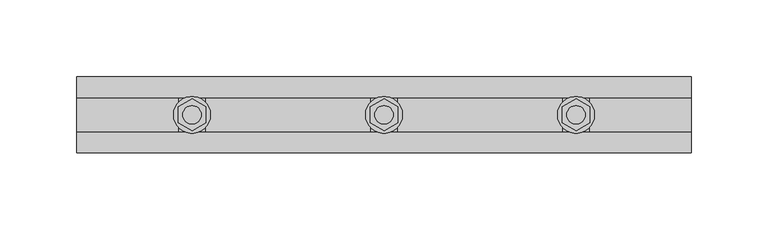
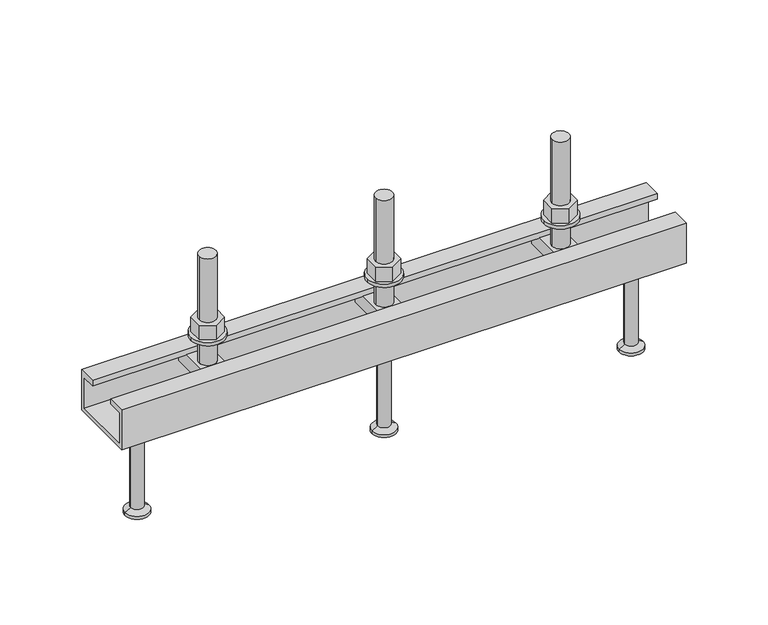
"""IFC4 building model written with IfcOpenShell, lengths in millimetres: fastener geometry, JTA-W JORDAHL® AnchorChannels : JTA-W L=400 mm."""

from ifc_helpers import new_model, si_unit, point, frame, frame_2d, origin, place, context, project, spatial, polyline, circle_curve, trimmed, segment, composite_curve, outline, extrude, source, transform, mapped, element, save
from ifc_brep_helpers import plane_surface, cylinder_surface, revolved_surface, advanced_brep


def fastener_ec209d90(model_context):
    return source(origin(), model_context, "Body", "SolidModel", [
        extrude(outline(polyline([(200.0, -10.3923048), (191.0, -5.1961524), (191.0, 5.1961524), (200.0, 10.3923048), (209.0, 5.1961524), (209.0, -5.1961524), (200.0, -10.3923048)]), holes=[composite_curve([segment(trimmed(circle_curve(frame_2d((200.0, 0.0)), 6.0), [point((194.0, 0.0))], [point((206.0, 0.0))], True, "CARTESIAN"), True, "CONTINUOUS"), segment(trimmed(circle_curve(frame_2d((200.0, 0.0)), 6.0), [point((206.0, 0.0))], [point((194.0, 0.0))], True, "CARTESIAN"), True, "CONTINUOUS")], self_intersect=False)]), frame((0.0, 0.0, 17.5), z_axis=(0.0, 0.0, 1.0), x_axis=(1.0, 0.0, 0.0)), (0.0, 0.0, 1.0), 10.8),
        extrude(outline(composite_curve([segment(trimmed(circle_curve(frame_2d((200.0, 0.0)), 12.0), [point((188.0, 0.0))], [point((212.0, 0.0))], False, "CARTESIAN"), True, "CONTINUOUS"), segment(trimmed(circle_curve(frame_2d((200.0, 0.0)), 12.0), [point((212.0, 0.0))], [point((188.0, 0.0))], False, "CARTESIAN"), True, "CONTINUOUS")], self_intersect=False), holes=[composite_curve([segment(trimmed(circle_curve(frame_2d((200.0, 0.0)), 6.5), [point((193.5, 0.0))], [point((206.5, 0.0))], True, "CARTESIAN"), True, "CONTINUOUS"), segment(trimmed(circle_curve(frame_2d((200.0, 0.0)), 6.5), [point((206.5, 0.0))], [point((193.5, 0.0))], True, "CARTESIAN"), True, "CONTINUOUS")], self_intersect=False)]), frame((0.0, 0.0, 15.0), z_axis=(0.0, 0.0, 1.0), x_axis=(1.0, 0.0, 0.0)), (0.0, 0.0, 1.0), 2.5),
        advanced_brep(
        [(208.5, -20.7, -4.0), (208.5, -20.7, -14.0), (208.5, 20.7, -14.0), (208.5, 20.7, -4.0), (191.5, -20.7, -4.0), (191.5, 20.7, -4.0), (191.5, 20.7, -14.0), (191.5, -20.7, -14.0), (206.0, 0.0, -4.0), (194.0, 0.0, -4.0), (194.0, 0.0, 76.0), (206.0, 0.0, 76.0)],
        [
            (0, 1),
            (1, 2),
            (2, 3),
            (3, 0),
            (4, 5),
            (5, 6),
            (6, 7),
            (7, 4),
            (3, 5),
            (4, 0),
            (8, 9, circle_curve(frame((200.0, 0.0, -4.0), z_axis=(0.0, 0.0, -1.0), x_axis=(1.0, 0.0, 0.0)), 6.0)),
            (9, 8, circle_curve(frame((200.0, 0.0, -4.0), z_axis=(0.0, 0.0, -1.0), x_axis=(1.0, 0.0, 0.0)), 6.0)),
            (2, 6),
            (1, 7),
            (10, 11, circle_curve(frame((200.0, 0.0, 76.0), z_axis=(0.0, 0.0, 1.0), x_axis=(1.0, 0.0, 0.0)), 6.0)),
            (11, 10, circle_curve(frame((200.0, 0.0, 76.0), z_axis=(0.0, 0.0, 1.0), x_axis=(1.0, 0.0, 0.0)), 6.0)),
            (11, 8),
            (9, 10),
        ],
        [
            plane_surface(frame((208.5, 20.7, -4.0), z_axis=(1.0, 0.0, 0.0), x_axis=(0.0, 1.0, 0.0))),
            plane_surface(frame((191.5, 20.7, -4.0), z_axis=(-1.0, 0.0, 0.0), x_axis=(0.0, -1.0, 0.0))),
            plane_surface(frame((208.5, -20.7, -4.0), z_axis=(0.0, 0.0, 1.0), x_axis=(-1.0, 0.0, 0.0))),
            plane_surface(frame((208.5, 20.7, -4.0), z_axis=(0.0, 1.0, 0.0), x_axis=(-1.0, 0.0, 0.0))),
            plane_surface(frame((208.5, 20.7, -14.0), z_axis=(0.0, 0.0, -1.0), x_axis=(-1.0, 0.0, 0.0))),
            plane_surface(frame((208.5, -20.7, -14.0), z_axis=(0.0, -1.0, 0.0), x_axis=(-1.0, 0.0, 0.0))),
            plane_surface(frame((206.0, 0.0, 76.0), z_axis=(0.0, 0.0, 1.0), x_axis=(0.0, -1.0, 0.0))),
            cylinder_surface(frame((200.0, 0.0, -4.0), z_axis=(0.0, 0.0, 1.0), x_axis=(1.0, 0.0, 0.0)), 6.0),
        ],
        [
            (0, [[1, 2, 3, 4]]),
            (1, [[5, 6, 7, 8]]),
            (2, [[9, -5, 10, -4], [11, 12]]),
            (3, [[13, -6, -9, -3]]),
            (4, [[14, -7, -13, -2]]),
            (5, [[-10, -8, -14, -1]]),
            (6, [[15, 16]]),
            (7, [[17, -12, 18, -16]]),
            (7, [[-18, -11, -17, -15]]),
        ],
    ),
        advanced_brep(
        [(200.0, 0.0, -30.0), (186.5, 0.0, -30.0), (213.5, 0.0, -30.0), (191.5, 0.0, -100.0), (200.0, 0.0, -100.0), (208.5, 0.0, -100.0), (191.5, 0.0, -98.0), (208.5, 0.0, -98.0), (195.5, 0.0, -95.6905989), (204.5, 0.0, -95.6905989), (195.5, 0.0, -32.5), (204.5, 0.0, -32.5)],
        [
            (0, 1),
            (1, 2, circle_curve(frame((200.0, 0.0, -30.0), z_axis=(0.0, 0.0, 1.0), x_axis=(1.0, 0.0, 0.0)), 13.5)),
            (2, 0),
            (2, 1, circle_curve(frame((200.0, 0.0, -30.0), z_axis=(0.0, 0.0, 1.0), x_axis=(1.0, 0.0, 0.0)), 13.5)),
            (3, 4),
            (4, 5),
            (5, 3, circle_curve(frame((200.0, 0.0, -100.0), z_axis=(0.0, 0.0, -1.0), x_axis=(1.0, 0.0, 0.0)), 8.5)),
            (3, 5, circle_curve(frame((200.0, 0.0, -100.0), z_axis=(0.0, 0.0, -1.0), x_axis=(1.0, 0.0, 0.0)), 8.5)),
            (6, 3),
            (5, 7),
            (7, 6, circle_curve(frame((200.0, 0.0, -98.0), z_axis=(0.0, 0.0, -1.0), x_axis=(1.0, 0.0, 0.0)), 8.5)),
            (6, 7, circle_curve(frame((200.0, 0.0, -98.0), z_axis=(0.0, 0.0, -1.0), x_axis=(1.0, 0.0, 0.0)), 8.5)),
            (8, 6),
            (7, 9),
            (9, 8, circle_curve(frame((200.0, 0.0, -95.6905989), z_axis=(0.0, 0.0, -1.0), x_axis=(1.0, 0.0, 0.0)), 4.5)),
            (8, 9, circle_curve(frame((200.0, 0.0, -95.6905989), z_axis=(0.0, 0.0, -1.0), x_axis=(1.0, 0.0, 0.0)), 4.5)),
            (10, 8),
            (9, 11),
            (11, 10, circle_curve(frame((200.0, 0.0, -32.5), z_axis=(0.0, 0.0, -1.0), x_axis=(1.0, 0.0, 0.0)), 4.5)),
            (10, 11, circle_curve(frame((200.0, 0.0, -32.5), z_axis=(0.0, 0.0, -1.0), x_axis=(1.0, 0.0, 0.0)), 4.5)),
            (1, 10),
            (11, 2),
        ],
        [
            plane_surface(frame((200.0, 0.0, -30.0), z_axis=(0.0, 0.0, 1.0), x_axis=(1.0, 0.0, 0.0))),
            plane_surface(frame((200.0, 0.0, -100.0), z_axis=(0.0, 0.0, -1.0), x_axis=(1.0, 0.0, 0.0))),
            cylinder_surface(frame((200.0, 0.0, 2284.3150031), z_axis=(0.0, 0.0, 1.0), x_axis=(1.0, 0.0, 0.0)), 8.5),
            revolved_surface(polyline([(208.5, 0.0, -98.0), (204.5, 0.0, -95.6905989)]), (200.0, 0.0, 2284.3150031), (0.0, 0.0, 1.0)),
            cylinder_surface(frame((200.0, 0.0, 2284.3150031), z_axis=(0.0, 0.0, 1.0), x_axis=(1.0, 0.0, 0.0)), 4.5),
            revolved_surface(polyline([(204.5, 0.0, -32.5), (213.5, 0.0, -30.0)]), (200.0, 0.0, 2284.3150031), (0.0, 0.0, 1.0)),
        ],
        [
            (0, [[1, 2, 3]]),
            (0, [[-3, 4, -1]]),
            (1, [[5, 6, 7]]),
            (1, [[-6, -5, 8]]),
            (2, [[9, -7, 10, 11]]),
            (2, [[-10, -8, -9, 12]]),
            (3, [[13, -11, 14, 15]]),
            (3, [[-14, -12, -13, 16]]),
            (4, [[17, -15, 18, 19]]),
            (4, [[-18, -16, -17, 20]]),
            (5, [[21, -19, 22, -2]]),
            (5, [[-22, -20, -21, -4]]),
        ],
    ),
        extrude(outline(polyline([(325.0, -10.3923048), (316.0, -5.1961524), (316.0, 5.1961524), (325.0, 10.3923048), (334.0, 5.1961524), (334.0, -5.1961524), (325.0, -10.3923048)]), holes=[composite_curve([segment(trimmed(circle_curve(frame_2d((325.0, 0.0)), 6.0), [point((319.0, 0.0))], [point((331.0, 0.0))], True, "CARTESIAN"), True, "CONTINUOUS"), segment(trimmed(circle_curve(frame_2d((325.0, 0.0)), 6.0), [point((331.0, 0.0))], [point((319.0, 0.0))], True, "CARTESIAN"), True, "CONTINUOUS")], self_intersect=False)]), frame((0.0, 0.0, 17.5), z_axis=(0.0, 0.0, 1.0), x_axis=(1.0, 0.0, 0.0)), (0.0, 0.0, 1.0), 10.8),
        extrude(outline(composite_curve([segment(trimmed(circle_curve(frame_2d((325.0, 0.0)), 12.0), [point((313.0, 0.0))], [point((337.0, 0.0))], False, "CARTESIAN"), True, "CONTINUOUS"), segment(trimmed(circle_curve(frame_2d((325.0, 0.0)), 12.0), [point((337.0, 0.0))], [point((313.0, 0.0))], False, "CARTESIAN"), True, "CONTINUOUS")], self_intersect=False), holes=[composite_curve([segment(trimmed(circle_curve(frame_2d((325.0, 0.0)), 6.5), [point((318.5, 0.0))], [point((331.5, 0.0))], True, "CARTESIAN"), True, "CONTINUOUS"), segment(trimmed(circle_curve(frame_2d((325.0, 0.0)), 6.5), [point((331.5, 0.0))], [point((318.5, 0.0))], True, "CARTESIAN"), True, "CONTINUOUS")], self_intersect=False)]), frame((0.0, 0.0, 15.0), z_axis=(0.0, 0.0, 1.0), x_axis=(1.0, 0.0, 0.0)), (0.0, 0.0, 1.0), 2.5),
        extrude(outline(polyline([(75.0, -10.3923048), (66.0, -5.1961524), (66.0, 5.1961524), (75.0, 10.3923048), (84.0, 5.1961524), (84.0, -5.1961524), (75.0, -10.3923048)]), holes=[composite_curve([segment(trimmed(circle_curve(frame_2d((75.0, 0.0)), 6.0), [point((69.0, 0.0))], [point((81.0, 0.0))], True, "CARTESIAN"), True, "CONTINUOUS"), segment(trimmed(circle_curve(frame_2d((75.0, 0.0)), 6.0), [point((81.0, 0.0))], [point((69.0, 0.0))], True, "CARTESIAN"), True, "CONTINUOUS")], self_intersect=False)]), frame((0.0, 0.0, 17.5), z_axis=(0.0, 0.0, 1.0), x_axis=(1.0, 0.0, 0.0)), (0.0, 0.0, 1.0), 10.8),
        extrude(outline(composite_curve([segment(trimmed(circle_curve(frame_2d((75.0, 0.0)), 12.0), [point((63.0, 0.0))], [point((87.0, 0.0))], False, "CARTESIAN"), True, "CONTINUOUS"), segment(trimmed(circle_curve(frame_2d((75.0, 0.0)), 12.0), [point((87.0, 0.0))], [point((63.0, 0.0))], False, "CARTESIAN"), True, "CONTINUOUS")], self_intersect=False), holes=[composite_curve([segment(trimmed(circle_curve(frame_2d((75.0, 0.0)), 6.5), [point((68.5, 0.0))], [point((81.5, 0.0))], True, "CARTESIAN"), True, "CONTINUOUS"), segment(trimmed(circle_curve(frame_2d((75.0, 0.0)), 6.5), [point((81.5, 0.0))], [point((68.5, 0.0))], True, "CARTESIAN"), True, "CONTINUOUS")], self_intersect=False)]), frame((0.0, 0.0, 15.0), z_axis=(0.0, 0.0, 1.0), x_axis=(1.0, 0.0, 0.0)), (0.0, 0.0, 1.0), 2.5),
        advanced_brep(
        [(333.5, -20.7, -4.0), (333.5, -20.7, -14.0), (333.5, 20.7, -14.0), (333.5, 20.7, -4.0), (316.5, -20.7, -4.0), (316.5, 20.7, -4.0), (316.5, 20.7, -14.0), (316.5, -20.7, -14.0), (331.0, 0.0, -4.0), (319.0, 0.0, -4.0), (319.0, 0.0, 76.0), (331.0, 0.0, 76.0)],
        [
            (0, 1),
            (1, 2),
            (2, 3),
            (3, 0),
            (4, 5),
            (5, 6),
            (6, 7),
            (7, 4),
            (3, 5),
            (4, 0),
            (8, 9, circle_curve(frame((325.0, 0.0, -4.0), z_axis=(0.0, 0.0, -1.0), x_axis=(1.0, 0.0, 0.0)), 6.0)),
            (9, 8, circle_curve(frame((325.0, 0.0, -4.0), z_axis=(0.0, 0.0, -1.0), x_axis=(1.0, 0.0, 0.0)), 6.0)),
            (2, 6),
            (1, 7),
            (10, 11, circle_curve(frame((325.0, 0.0, 76.0), z_axis=(0.0, 0.0, 1.0), x_axis=(1.0, 0.0, 0.0)), 6.0)),
            (11, 10, circle_curve(frame((325.0, 0.0, 76.0), z_axis=(0.0, 0.0, 1.0), x_axis=(1.0, 0.0, 0.0)), 6.0)),
            (11, 8),
            (9, 10),
        ],
        [
            plane_surface(frame((333.5, 20.7, -4.0), z_axis=(1.0, 0.0, 0.0), x_axis=(0.0, 1.0, 0.0))),
            plane_surface(frame((316.5, 20.7, -4.0), z_axis=(-1.0, 0.0, 0.0), x_axis=(0.0, -1.0, 0.0))),
            plane_surface(frame((333.5, -20.7, -4.0), z_axis=(0.0, 0.0, 1.0), x_axis=(-1.0, 0.0, 0.0))),
            plane_surface(frame((333.5, 20.7, -4.0), z_axis=(0.0, 1.0, 0.0), x_axis=(-1.0, 0.0, 0.0))),
            plane_surface(frame((333.5, 20.7, -14.0), z_axis=(0.0, 0.0, -1.0), x_axis=(-1.0, 0.0, 0.0))),
            plane_surface(frame((333.5, -20.7, -14.0), z_axis=(0.0, -1.0, 0.0), x_axis=(-1.0, 0.0, 0.0))),
            plane_surface(frame((331.0, 0.0, 76.0), z_axis=(0.0, 0.0, 1.0), x_axis=(0.0, -1.0, 0.0))),
            cylinder_surface(frame((325.0, 0.0, -4.0), z_axis=(0.0, 0.0, 1.0), x_axis=(1.0, 0.0, 0.0)), 6.0),
        ],
        [
            (0, [[1, 2, 3, 4]]),
            (1, [[5, 6, 7, 8]]),
            (2, [[9, -5, 10, -4], [11, 12]]),
            (3, [[13, -6, -9, -3]]),
            (4, [[14, -7, -13, -2]]),
            (5, [[-10, -8, -14, -1]]),
            (6, [[15, 16]]),
            (7, [[17, -12, 18, -16]]),
            (7, [[-18, -11, -17, -15]]),
        ],
    ),
        advanced_brep(
        [(83.5, -20.7, -4.0), (83.5, -20.7, -14.0), (83.5, 20.7, -14.0), (83.5, 20.7, -4.0), (66.5, -20.7, -4.0), (66.5, 20.7, -4.0), (66.5, 20.7, -14.0), (66.5, -20.7, -14.0), (81.0, 0.0, -4.0), (69.0, 0.0, -4.0), (69.0, 0.0, 76.0), (81.0, 0.0, 76.0)],
        [
            (0, 1),
            (1, 2),
            (2, 3),
            (3, 0),
            (4, 5),
            (5, 6),
            (6, 7),
            (7, 4),
            (3, 5),
            (4, 0),
            (8, 9, circle_curve(frame((75.0, 0.0, -4.0), z_axis=(0.0, 0.0, -1.0), x_axis=(1.0, 0.0, 0.0)), 6.0)),
            (9, 8, circle_curve(frame((75.0, 0.0, -4.0), z_axis=(0.0, 0.0, -1.0), x_axis=(1.0, 0.0, 0.0)), 6.0)),
            (2, 6),
            (1, 7),
            (10, 11, circle_curve(frame((75.0, 0.0, 76.0), z_axis=(0.0, 0.0, 1.0), x_axis=(1.0, 0.0, 0.0)), 6.0)),
            (11, 10, circle_curve(frame((75.0, 0.0, 76.0), z_axis=(0.0, 0.0, 1.0), x_axis=(1.0, 0.0, 0.0)), 6.0)),
            (11, 8),
            (9, 10),
        ],
        [
            plane_surface(frame((83.5, 20.7, -4.0), z_axis=(1.0, 0.0, 0.0), x_axis=(0.0, 1.0, 0.0))),
            plane_surface(frame((66.5, 20.7, -4.0), z_axis=(-1.0, 0.0, 0.0), x_axis=(0.0, -1.0, 0.0))),
            plane_surface(frame((83.5, -20.7, -4.0), z_axis=(0.0, 0.0, 1.0), x_axis=(-1.0, 0.0, 0.0))),
            plane_surface(frame((83.5, 20.7, -4.0), z_axis=(0.0, 1.0, 0.0), x_axis=(-1.0, 0.0, 0.0))),
            plane_surface(frame((83.5, 20.7, -14.0), z_axis=(0.0, 0.0, -1.0), x_axis=(-1.0, 0.0, 0.0))),
            plane_surface(frame((83.5, -20.7, -14.0), z_axis=(0.0, -1.0, 0.0), x_axis=(-1.0, 0.0, 0.0))),
            plane_surface(frame((81.0, 0.0, 76.0), z_axis=(0.0, 0.0, 1.0), x_axis=(0.0, -1.0, 0.0))),
            cylinder_surface(frame((75.0, 0.0, -4.0), z_axis=(0.0, 0.0, 1.0), x_axis=(1.0, 0.0, 0.0)), 6.0),
        ],
        [
            (0, [[1, 2, 3, 4]]),
            (1, [[5, 6, 7, 8]]),
            (2, [[9, -5, 10, -4], [11, 12]]),
            (3, [[13, -6, -9, -3]]),
            (4, [[14, -7, -13, -2]]),
            (5, [[-10, -8, -14, -1]]),
            (6, [[15, 16]]),
            (7, [[17, -12, 18, -16]]),
            (7, [[-18, -11, -17, -15]]),
        ],
    ),
        advanced_brep(
        [(375.0, 0.0, -30.0), (361.5, 0.0, -30.0), (388.5, 0.0, -30.0), (366.5, 0.0, -100.0), (375.0, 0.0, -100.0), (383.5, 0.0, -100.0), (366.5, 0.0, -98.0), (383.5, 0.0, -98.0), (370.5, 0.0, -95.6905989), (379.5, 0.0, -95.6905989), (370.5, 0.0, -32.5), (379.5, 0.0, -32.5)],
        [
            (0, 1),
            (1, 2, circle_curve(frame((375.0, 0.0, -30.0), z_axis=(0.0, 0.0, 1.0), x_axis=(1.0, 0.0, 0.0)), 13.5)),
            (2, 0),
            (2, 1, circle_curve(frame((375.0, 0.0, -30.0), z_axis=(0.0, 0.0, 1.0), x_axis=(1.0, 0.0, 0.0)), 13.5)),
            (3, 4),
            (4, 5),
            (5, 3, circle_curve(frame((375.0, 0.0, -100.0), z_axis=(0.0, 0.0, -1.0), x_axis=(1.0, 0.0, 0.0)), 8.5)),
            (3, 5, circle_curve(frame((375.0, 0.0, -100.0), z_axis=(0.0, 0.0, -1.0), x_axis=(1.0, 0.0, 0.0)), 8.5)),
            (6, 3),
            (5, 7),
            (7, 6, circle_curve(frame((375.0, 0.0, -98.0), z_axis=(0.0, 0.0, -1.0), x_axis=(1.0, 0.0, 0.0)), 8.5)),
            (6, 7, circle_curve(frame((375.0, 0.0, -98.0), z_axis=(0.0, 0.0, -1.0), x_axis=(1.0, 0.0, 0.0)), 8.5)),
            (8, 6),
            (7, 9),
            (9, 8, circle_curve(frame((375.0, 0.0, -95.6905989), z_axis=(0.0, 0.0, -1.0), x_axis=(1.0, 0.0, 0.0)), 4.5)),
            (8, 9, circle_curve(frame((375.0, 0.0, -95.6905989), z_axis=(0.0, 0.0, -1.0), x_axis=(1.0, 0.0, 0.0)), 4.5)),
            (10, 8),
            (9, 11),
            (11, 10, circle_curve(frame((375.0, 0.0, -32.5), z_axis=(0.0, 0.0, -1.0), x_axis=(1.0, 0.0, 0.0)), 4.5)),
            (10, 11, circle_curve(frame((375.0, 0.0, -32.5), z_axis=(0.0, 0.0, -1.0), x_axis=(1.0, 0.0, 0.0)), 4.5)),
            (1, 10),
            (11, 2),
        ],
        [
            plane_surface(frame((375.0, 0.0, -30.0), z_axis=(0.0, 0.0, 1.0), x_axis=(1.0, 0.0, 0.0))),
            plane_surface(frame((375.0, 0.0, -100.0), z_axis=(0.0, 0.0, -1.0), x_axis=(1.0, 0.0, 0.0))),
            cylinder_surface(frame((375.0, 0.0, 2284.3150031), z_axis=(0.0, 0.0, 1.0), x_axis=(1.0, 0.0, 0.0)), 8.5),
            revolved_surface(polyline([(383.5, 0.0, -98.0), (379.5, 0.0, -95.6905989)]), (375.0, 0.0, 2284.3150031), (0.0, 0.0, 1.0)),
            cylinder_surface(frame((375.0, 0.0, 2284.3150031), z_axis=(0.0, 0.0, 1.0), x_axis=(1.0, 0.0, 0.0)), 4.5),
            revolved_surface(polyline([(379.5, 0.0, -32.5), (388.5, 0.0, -30.0)]), (375.0, 0.0, 2284.3150031), (0.0, 0.0, 1.0)),
        ],
        [
            (0, [[1, 2, 3]]),
            (0, [[-3, 4, -1]]),
            (1, [[5, 6, 7]]),
            (1, [[-6, -5, 8]]),
            (2, [[9, -7, 10, 11]]),
            (2, [[-10, -8, -9, 12]]),
            (3, [[13, -11, 14, 15]]),
            (3, [[-14, -12, -13, 16]]),
            (4, [[17, -15, 18, 19]]),
            (4, [[-18, -16, -17, 20]]),
            (5, [[21, -19, 22, -2]]),
            (5, [[-22, -20, -21, -4]]),
        ],
    ),
        advanced_brep(
        [(25.0, 0.0, -30.0), (11.5, 0.0, -30.0), (38.5, 0.0, -30.0), (16.5, 0.0, -100.0), (25.0, 0.0, -100.0), (33.5, 0.0, -100.0), (16.5, 0.0, -98.0), (33.5, 0.0, -98.0), (20.5, 0.0, -95.6905989), (29.5, 0.0, -95.6905989), (20.5, 0.0, -32.5), (29.5, 0.0, -32.5)],
        [
            (0, 1),
            (1, 2, circle_curve(frame((25.0, 0.0, -30.0), z_axis=(0.0, 0.0, 1.0), x_axis=(1.0, 0.0, 0.0)), 13.5)),
            (2, 0),
            (2, 1, circle_curve(frame((25.0, 0.0, -30.0), z_axis=(0.0, 0.0, 1.0), x_axis=(1.0, 0.0, 0.0)), 13.5)),
            (3, 4),
            (4, 5),
            (5, 3, circle_curve(frame((25.0, 0.0, -100.0), z_axis=(0.0, 0.0, -1.0), x_axis=(1.0, 0.0, 0.0)), 8.5)),
            (3, 5, circle_curve(frame((25.0, 0.0, -100.0), z_axis=(0.0, 0.0, -1.0), x_axis=(1.0, 0.0, 0.0)), 8.5)),
            (6, 3),
            (5, 7),
            (7, 6, circle_curve(frame((25.0, 0.0, -98.0), z_axis=(0.0, 0.0, -1.0), x_axis=(1.0, 0.0, 0.0)), 8.5)),
            (6, 7, circle_curve(frame((25.0, 0.0, -98.0), z_axis=(0.0, 0.0, -1.0), x_axis=(1.0, 0.0, 0.0)), 8.5)),
            (8, 6),
            (7, 9),
            (9, 8, circle_curve(frame((25.0, 0.0, -95.6905989), z_axis=(0.0, 0.0, -1.0), x_axis=(1.0, 0.0, 0.0)), 4.5)),
            (8, 9, circle_curve(frame((25.0, 0.0, -95.6905989), z_axis=(0.0, 0.0, -1.0), x_axis=(1.0, 0.0, 0.0)), 4.5)),
            (10, 8),
            (9, 11),
            (11, 10, circle_curve(frame((25.0, 0.0, -32.5), z_axis=(0.0, 0.0, -1.0), x_axis=(1.0, 0.0, 0.0)), 4.5)),
            (10, 11, circle_curve(frame((25.0, 0.0, -32.5), z_axis=(0.0, 0.0, -1.0), x_axis=(1.0, 0.0, 0.0)), 4.5)),
            (1, 10),
            (11, 2),
        ],
        [
            plane_surface(frame((25.0, 0.0, -30.0), z_axis=(0.0, 0.0, 1.0), x_axis=(1.0, 0.0, 0.0))),
            plane_surface(frame((25.0, 0.0, -100.0), z_axis=(0.0, 0.0, -1.0), x_axis=(1.0, 0.0, 0.0))),
            cylinder_surface(frame((25.0, 0.0, 2284.3150031), z_axis=(0.0, 0.0, 1.0), x_axis=(1.0, 0.0, 0.0)), 8.5),
            revolved_surface(polyline([(33.5, 0.0, -98.0), (29.5, 0.0, -95.6905989)]), (25.0, 0.0, 2284.3150031), (0.0, 0.0, 1.0)),
            cylinder_surface(frame((25.0, 0.0, 2284.3150031), z_axis=(0.0, 0.0, 1.0), x_axis=(1.0, 0.0, 0.0)), 4.5),
            revolved_surface(polyline([(29.5, 0.0, -32.5), (38.5, 0.0, -30.0)]), (25.0, 0.0, 2284.3150031), (0.0, 0.0, 1.0)),
        ],
        [
            (0, [[1, 2, 3]]),
            (0, [[-3, 4, -1]]),
            (1, [[5, 6, 7]]),
            (1, [[-6, -5, 8]]),
            (2, [[9, -7, 10, 11]]),
            (2, [[-10, -8, -9, 12]]),
            (3, [[13, -11, 14, 15]]),
            (3, [[-14, -12, -13, 16]]),
            (4, [[17, -15, 18, 19]]),
            (4, [[-18, -16, -17, 20]]),
            (5, [[21, -19, 22, -2]]),
            (5, [[-22, -20, -21, -4]]),
        ],
    ),
        extrude(outline(polyline([(-24.75, 0.0), (-11.25, 0.0), (-11.25, -4.0), (-21.95, -4.0), (-21.95, -27.2), (21.95, -27.2), (21.95, -4.0), (11.25, -4.0), (11.25, 0.0), (24.75, 0.0), (24.75, -30.0), (-24.75, -30.0), (-24.75, 0.0)])), frame((0.0, 0.0, 0.0), z_axis=(1.0, 0.0, 0.0), x_axis=(0.0, 1.0, 0.0)), (0.0, 0.0, 1.0), 400.0),
    ])


if __name__ == "__main__":
    model = new_model("IFC4")
    model_context = context("Model", 3, world=origin())
    ifc_project = project(units=[si_unit("LENGTHUNIT", "METRE", prefix="MILLI")], contexts=[model_context])
    site = spatial("IfcSite", under=ifc_project)
    building = spatial("IfcBuilding", under=site)
    placement = place(None, origin())
    fastener_shape = fastener_ec209d90(model_context)
    element("IfcFastener", 1, ObjectType="JTA-W JORDAHL® AnchorChannels : JTA-W L=400 mm", at=placement, inside=building, context=model_context, shape_type="MappedRepresentation", body=[
        mapped(fastener_shape, transform((0.0, 0.0, 0.0), x_axis=(1.0, 0.0, 0.0), y_axis=(0.0, 1.0, 0.0), z_axis=(0.0, 0.0, 1.0))),
    ])
    save(model, "model.ifc")
